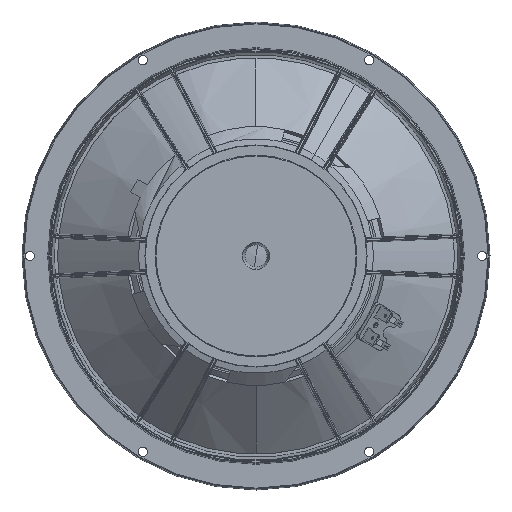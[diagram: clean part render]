
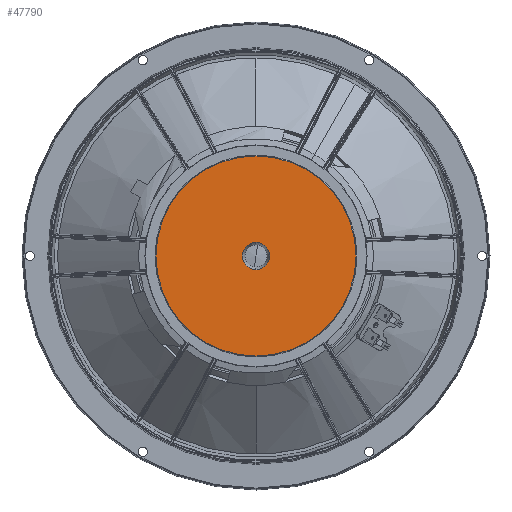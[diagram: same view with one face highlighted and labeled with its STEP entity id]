
A CAD part, front view. The second image highlights one B-rep face of the part: STEP entity #47790.
In plain terms, the highlighted planar face has unit normal (0, -1, 0).
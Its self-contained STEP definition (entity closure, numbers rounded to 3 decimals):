
#1541 = EDGE_LOOP ( 'NONE', ( #36525, #47354 ) ) ;
#2631 = EDGE_LOOP ( 'NONE', ( #18902, #34227 ) ) ;
#2659 = AXIS2_PLACEMENT_3D ( 'NONE', #43379, #39446, #23805 ) ;
#3140 = VERTEX_POINT ( 'NONE', #42606 ) ;
#4478 = AXIS2_PLACEMENT_3D ( 'NONE', #47065, #27245, #43157 ) ;
#5837 = CARTESIAN_POINT ( 'NONE',  ( 0., -38., 54.5 ) ) ;
#8955 = VERTEX_POINT ( 'NONE', #21929 ) ;
#14200 = DIRECTION ( 'NONE',  ( 0., -1., 0. ) ) ;
#18614 = DIRECTION ( 'NONE',  ( 0., 0., 1. ) ) ;
#18902 = ORIENTED_EDGE ( 'NONE', *, *, #25977, .F. ) ;
#20359 = CIRCLE ( 'NONE', #36989, 7.456 ) ;
#21851 = CIRCLE ( 'NONE', #2659, 54.5 ) ;
#21929 = CARTESIAN_POINT ( 'NONE',  ( 0., -38., -7.456 ) ) ;
#23805 = DIRECTION ( 'NONE',  ( 0., 0., 1. ) ) ;
#25977 = EDGE_CURVE ( 'NONE', #3140, #8955, #40373, .T. ) ;
#27245 = DIRECTION ( 'NONE',  ( 0., -1., 0. ) ) ;
#30877 = PLANE ( 'NONE',  #49629 ) ;
#31142 = FACE_BOUND ( 'NONE', #2631, .T. ) ;
#32470 = VERTEX_POINT ( 'NONE', #37526 ) ;
#33300 = DIRECTION ( 'NONE',  ( 0., -1., 0. ) ) ;
#34227 = ORIENTED_EDGE ( 'NONE', *, *, #51444, .F. ) ;
#34270 = DIRECTION ( 'NONE',  ( 0., 0., 1. ) ) ;
#35624 = CARTESIAN_POINT ( 'NONE',  ( 0., -38., 0. ) ) ;
#36152 = EDGE_CURVE ( 'NONE', #32470, #39236, #21851, .T. ) ;
#36525 = ORIENTED_EDGE ( 'NONE', *, *, #48874, .T. ) ;
#36989 = AXIS2_PLACEMENT_3D ( 'NONE', #45044, #33300, #18614 ) ;
#37526 = CARTESIAN_POINT ( 'NONE',  ( 0., -38., -54.5 ) ) ;
#38052 = DIRECTION ( 'NONE',  ( 0., -1., 0. ) ) ;
#38105 = AXIS2_PLACEMENT_3D ( 'NONE', #35624, #38052, #42744 ) ;
#38170 = FACE_OUTER_BOUND ( 'NONE', #1541, .T. ) ;
#38947 = CIRCLE ( 'NONE', #38105, 54.5 ) ;
#39236 = VERTEX_POINT ( 'NONE', #5837 ) ;
#39446 = DIRECTION ( 'NONE',  ( 0., -1., 0. ) ) ;
#40373 = CIRCLE ( 'NONE', #4478, 7.456 ) ;
#42606 = CARTESIAN_POINT ( 'NONE',  ( 0., -38., 7.456 ) ) ;
#42744 = DIRECTION ( 'NONE',  ( 0., 0., 1. ) ) ;
#43157 = DIRECTION ( 'NONE',  ( 0., 0., 1. ) ) ;
#43379 = CARTESIAN_POINT ( 'NONE',  ( 0., -38., 0. ) ) ;
#45044 = CARTESIAN_POINT ( 'NONE',  ( 0., -38., 0. ) ) ;
#47065 = CARTESIAN_POINT ( 'NONE',  ( 0., -38., 0. ) ) ;
#47354 = ORIENTED_EDGE ( 'NONE', *, *, #36152, .T. ) ;
#47790 = ADVANCED_FACE ( 'NONE', ( #38170, #31142 ), #30877, .T. ) ;
#48874 = EDGE_CURVE ( 'NONE', #39236, #32470, #38947, .T. ) ;
#49629 = AXIS2_PLACEMENT_3D ( 'NONE', #49929, #14200, #34270 ) ;
#49929 = CARTESIAN_POINT ( 'NONE',  ( -7.456, -38., 0. ) ) ;
#51444 = EDGE_CURVE ( 'NONE', #8955, #3140, #20359, .T. ) ;
